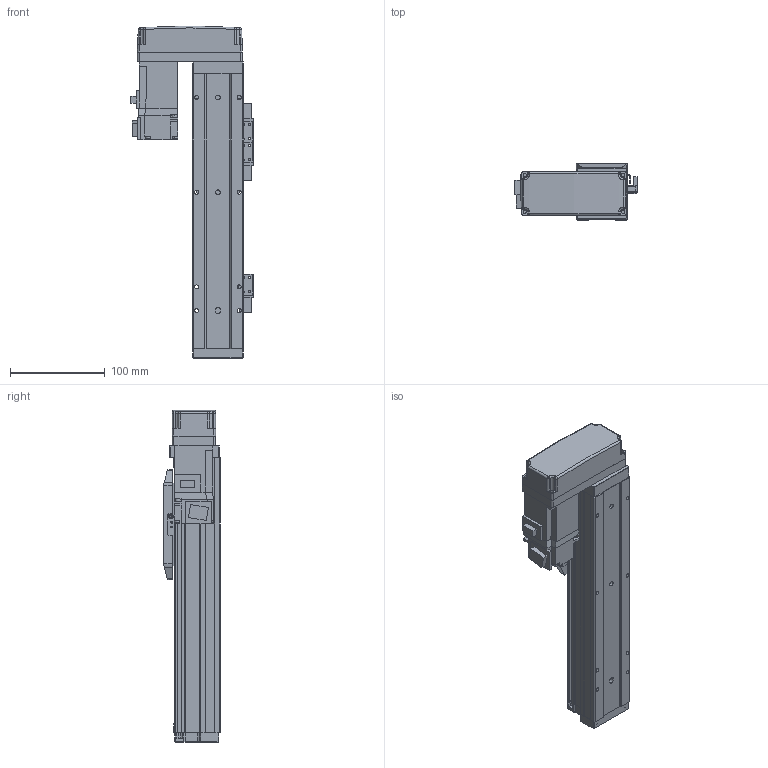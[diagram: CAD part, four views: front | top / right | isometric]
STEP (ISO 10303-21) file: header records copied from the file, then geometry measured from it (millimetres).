
FILE_DESCRIPTION (( 'STEP AP214' ), '1' );
FILE_NAME ('N_GRH5-150-BR-M10.step', '2025-03-14T10:57:47', ( '' ), ( '' ), 'SwSTEP 2.0', 'SolidWorks 2016', '' );
FILE_SCHEMA (( 'AUTOMOTIVE_DESIGN' ));
Length unit declared in the file: millimetre
Products named in the file (5): N_GRH5-GY-004^N_GRH5-150-BR-M10; HF-KP13_100W_Motor^N_GRH5-150-BR-M10; N_GRH5-150-BR-M10; N_GRH5-GY-011^N_GRH5-150-BR-M10; N_GRH5-BL-008^N_GRH5-150-BR-M10
Assembly tree (4 placements, depth 2):
  N_GRH5-150-BR-M10
    N_GRH5-GY-011^N_GRH5-150-BR-M10
    N_GRH5-GY-004^N_GRH5-150-BR-M10
    HF-KP13_100W_Motor^N_GRH5-150-BR-M10
    N_GRH5-BL-008^N_GRH5-150-BR-M10
Bounding box: 128.85 x 60 x 350.5 mm (x, y, z)
Volume: 910554.3 mm3; surface area: 211294.9 mm2
Topology: 4 solids, 5 shells, 924 faces, 2360 edges, 1493 vertices
Faces by surface type: plane 545, cylinder 304, cone 50, bspline 15, sphere 10
Entity records: 35235 total; most frequent: CARTESIAN_POINT 5543, DIRECTION 4745, ORIENTED_EDGE 4656, EDGE_CURVE 2328, LINE 1627, VECTOR 1627, AXIS2_PLACEMENT_3D 1559, VERTEX_POINT 1491
